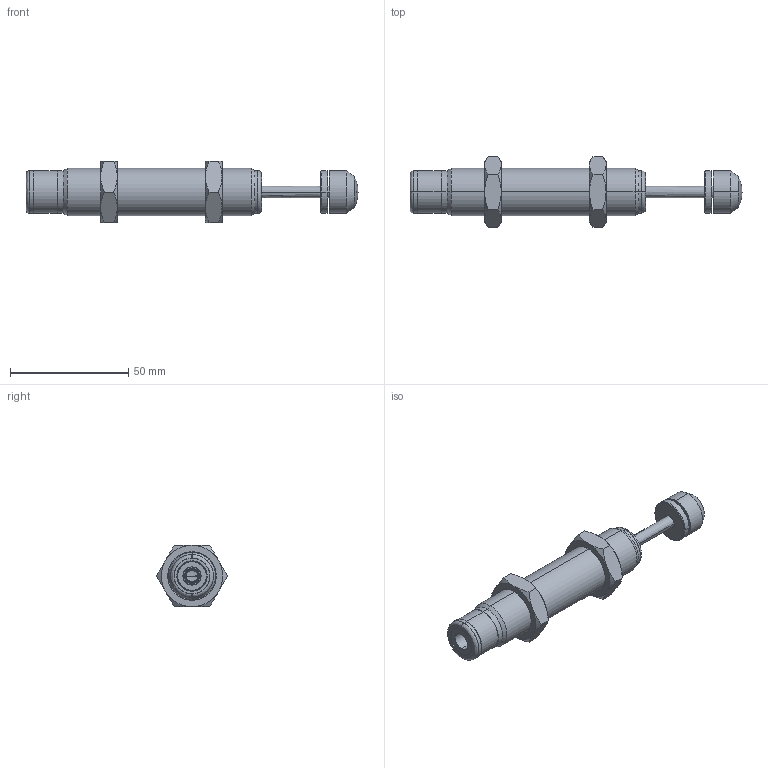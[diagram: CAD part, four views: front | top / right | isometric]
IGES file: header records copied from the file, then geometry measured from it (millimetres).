
Start section: SolidWorks IGES file using analytic representation for surfaces
Global section: file name: D:\IGS跡宒\AC2025-2K.IGS,1; native system: 5HSolidWorks 2013; preprocessor: SolidWorks 2013; author: Administrator; date: 160920.093549; units: inch
Bounding box: 140.4 x 30.02 x 26 mm (x, y, z)
Surface area: 16501.4 mm2 (no closed solid volume)
Topology: 0 solids, 0 shells, 107 faces, 1637 edges, 1636 vertices
Faces by surface type: revolution 78, bspline 29
